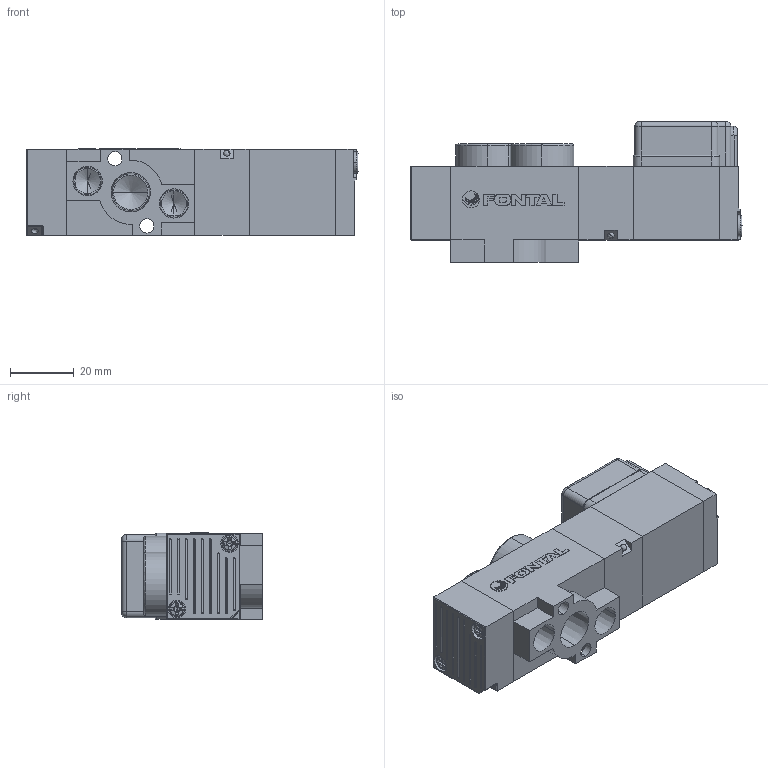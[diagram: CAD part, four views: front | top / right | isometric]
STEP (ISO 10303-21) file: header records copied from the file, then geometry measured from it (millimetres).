
FILE_DESCRIPTION (( 'STEP AP203' ), '1' );
FILE_NAME ('RCS2406-02-#G##.STEP', '2016-02-04T06:13:44', ( 'Sam Lin' ), ( '' ), 'SwSTEP 2.0', 'SolidWorks 2013', '' );
FILE_SCHEMA (( 'CONFIG_CONTROL_DESIGN' ));
Length unit declared in the file: metre
Products named in the file (12): RC06-3; PCS2406-3-小圓珠; PCS2406-3; RC06-4; PC6-M4; RC06-5; PCS2406-9; RCS2406-02-#G##; PC6-M3; PC06-MARK; RC06-1; RC06-2
Assembly tree (14 placements, depth 2):
  RCS2406-02-#G##
    PCS2406-3
    PC6-M4
    PCS2406-9
    PC6-M3  x4
    PC06-MARK
    RC06-1
    RC06-2
    RC06-3
    PCS2406-3-小圓珠
    RC06-4
    RC06-5
Bounding box: 103.75 x 44 x 27.15 mm (x, y, z)
Volume: 73339.9 mm3; surface area: 26824.4 mm2
Topology: 20 solids, 20 shells, 556 faces, 1389 edges, 858 vertices
Faces by surface type: plane 265, cylinder 134, bspline 84, cone 69, torus 4
Entity records: 15965 total; most frequent: CARTESIAN_POINT 4268, ORIENTED_EDGE 2182, DIRECTION 2085, EDGE_CURVE 1091, AXIS2_PLACEMENT_3D 735, VERTEX_POINT 705, LINE 615, VECTOR 615
